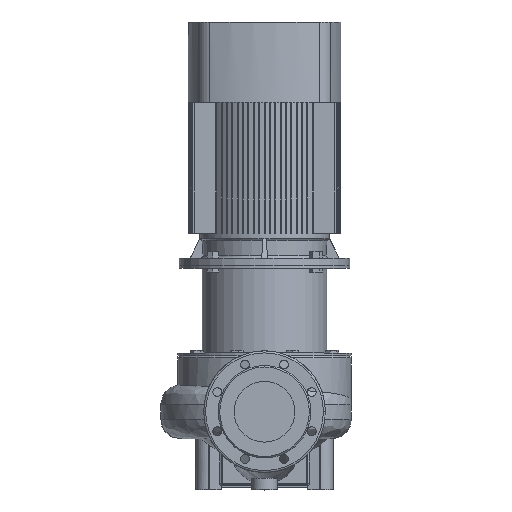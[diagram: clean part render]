
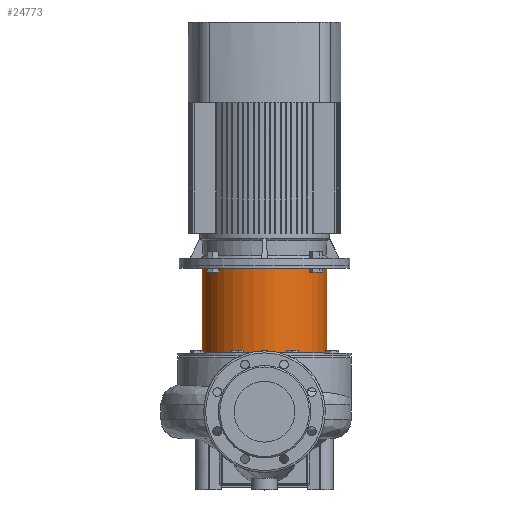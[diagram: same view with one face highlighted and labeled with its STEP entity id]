
A CAD part, top view. The second image highlights one B-rep face of the part: STEP entity #24773.
In plain terms, the highlighted cylindrical face has radius 128 mm (diameter 256 mm), a partial arc.
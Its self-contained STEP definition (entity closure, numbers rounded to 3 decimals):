
#103 = DIRECTION ( 'NONE',  ( 0., 0., 1. ) ) ;
#1428 = DIRECTION ( 'NONE',  ( 0., 0., 1. ) ) ;
#1445 = CARTESIAN_POINT ( 'NONE',  ( -128., 0., -180. ) ) ;
#4827 = CIRCLE ( 'NONE', #12493, 128. ) ;
#5795 = VECTOR ( 'NONE', #17094, 1000. ) ;
#7329 = LINE ( 'NONE', #10043, #5795 ) ;
#8146 = DIRECTION ( 'NONE',  ( 1., 0., 0. ) ) ;
#9510 = AXIS2_PLACEMENT_3D ( 'NONE', #15517, #17451, #8146 ) ;
#9880 = DIRECTION ( 'NONE',  ( 1., 0., 0. ) ) ;
#10043 = CARTESIAN_POINT ( 'NONE',  ( -128., 0., 14.36 ) ) ;
#10692 = EDGE_CURVE ( 'NONE', #16398, #23245, #11550, .T. ) ;
#11550 = CIRCLE ( 'NONE', #9510, 128. ) ;
#12493 = AXIS2_PLACEMENT_3D ( 'NONE', #18428, #1428, #23568 ) ;
#14927 = VECTOR ( 'NONE', #30871, 1000. ) ;
#15302 = EDGE_CURVE ( 'NONE', #19698, #22211, #4827, .T. ) ;
#15517 = CARTESIAN_POINT ( 'NONE',  ( 0., 0., -180. ) ) ;
#16398 = VERTEX_POINT ( 'NONE', #1445 ) ;
#17094 = DIRECTION ( 'NONE',  ( 0., 0., 1. ) ) ;
#17451 = DIRECTION ( 'NONE',  ( 0., 0., 1. ) ) ;
#18428 = CARTESIAN_POINT ( 'NONE',  ( 0., 0., -6. ) ) ;
#18560 = CARTESIAN_POINT ( 'NONE',  ( -128., 0., -6. ) ) ;
#18668 = CARTESIAN_POINT ( 'NONE',  ( 128., 0., 14.36 ) ) ;
#19698 = VERTEX_POINT ( 'NONE', #18560 ) ;
#21603 = AXIS2_PLACEMENT_3D ( 'NONE', #29145, #103, #9880 ) ;
#22078 = CYLINDRICAL_SURFACE ( 'NONE', #21603, 128. ) ;
#22211 = VERTEX_POINT ( 'NONE', #29174 ) ;
#23245 = VERTEX_POINT ( 'NONE', #28184 ) ;
#23363 = EDGE_LOOP ( 'NONE', ( #27374, #25914, #30144, #24301 ) ) ;
#23568 = DIRECTION ( 'NONE',  ( 1., 0., 0. ) ) ;
#23726 = EDGE_CURVE ( 'NONE', #23245, #22211, #30563, .T. ) ;
#24301 = ORIENTED_EDGE ( 'NONE', *, *, #15302, .F. ) ;
#24323 = FACE_OUTER_BOUND ( 'NONE', #23363, .T. ) ;
#24773 = ADVANCED_FACE ( 'NONE', ( #24323 ), #22078, .T. ) ;
#25914 = ORIENTED_EDGE ( 'NONE', *, *, #10692, .T. ) ;
#27305 = EDGE_CURVE ( 'NONE', #16398, #19698, #7329, .T. ) ;
#27374 = ORIENTED_EDGE ( 'NONE', *, *, #27305, .F. ) ;
#28184 = CARTESIAN_POINT ( 'NONE',  ( 128., 0., -180. ) ) ;
#29145 = CARTESIAN_POINT ( 'NONE',  ( 0., 0., 14.36 ) ) ;
#29174 = CARTESIAN_POINT ( 'NONE',  ( 128., 0., -6. ) ) ;
#30144 = ORIENTED_EDGE ( 'NONE', *, *, #23726, .T. ) ;
#30563 = LINE ( 'NONE', #18668, #14927 ) ;
#30871 = DIRECTION ( 'NONE',  ( 0., 0., 1. ) ) ;
